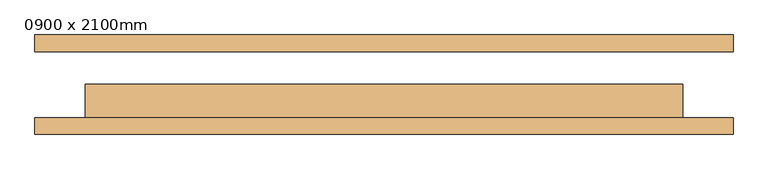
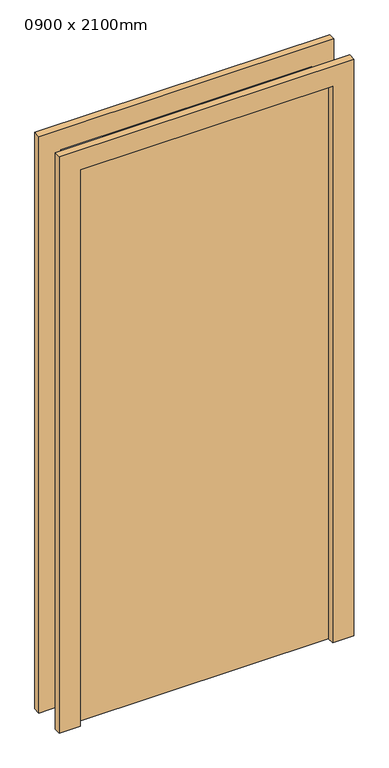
"""IFC4 building model written with IfcOpenShell, lengths in millimetres: door geometry, M_Folha única : 0900 x 2100mm."""

from ifc_helpers import new_model, si_unit, frame, origin, origin_with_axes, place, context, project, spatial, polyline, outline, extrude, source, transform, mapped, element, save


def door_0900_x_2100mm_4d4a8d81(model_context):
    return source(origin(), model_context, "Body", "SweptSolid", [
        extrude(outline(polyline([(2176.0, -526.0), (0.0, -526.0), (0.0, -450.0), (2100.0, -450.0), (2100.0, 450.0), (0.0, 450.0), (0.0, 526.0), (2176.0, 526.0), (2176.0, -526.0)])), frame((0.0, -75.0, 0.0), z_axis=(0.0, 1.0, 0.0), x_axis=(0.0, 0.0, 1.0)), (0.0, 0.0, 1.0), 25.0),
        extrude(outline(polyline([(2176.0, 526.0), (2176.0, -526.0), (0.0, -526.0), (0.0, -450.0), (2100.0, -450.0), (2100.0, 450.0), (0.0, 450.0), (0.0, 526.0), (2176.0, 526.0)])), frame((0.0, 50.0, 0.0), z_axis=(0.0, 1.0, 0.0), x_axis=(0.0, 0.0, 1.0)), (0.0, 0.0, 1.0), 25.0),
        extrude(outline(polyline([(450.0, 1.0), (450.0, -50.0), (-450.0, -50.0), (-450.0, 1.0), (450.0, 1.0)])), origin_with_axes(), (0.0, 0.0, 1.0), 2100.0),
    ])


if __name__ == "__main__":
    model = new_model("IFC4")
    model_context = context("Model", 3, world=origin())
    ifc_project = project(units=[si_unit("LENGTHUNIT", "METRE", prefix="MILLI")], contexts=[model_context])
    site = spatial("IfcSite", under=ifc_project)
    building = spatial("IfcBuilding", under=site)
    placement = place(None, origin())
    door_0900_x_2100mm_shape = door_0900_x_2100mm_4d4a8d81(model_context)
    element("IfcDoor", 1, ObjectType="M_Folha única : 0900 x 2100mm", at=placement, inside=building, context=model_context, shape_type="MappedRepresentation", body=[
        mapped(door_0900_x_2100mm_shape, transform((0.0, 0.0, 0.0), x_axis=(1.0, 0.0, 0.0), y_axis=(0.0, 1.0, 0.0), z_axis=(0.0, 0.0, 1.0))),
    ])
    save(model, "model.ifc")
